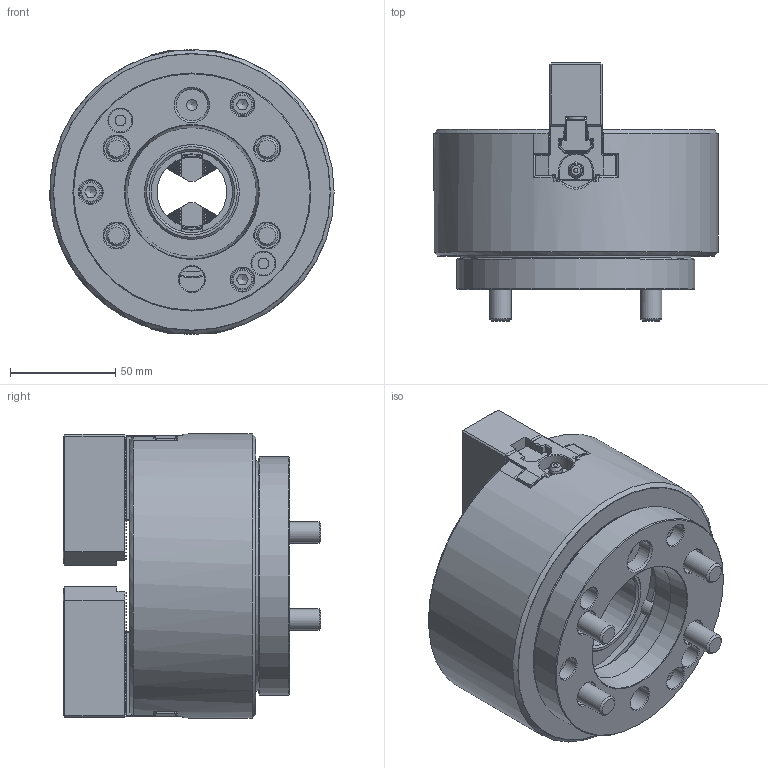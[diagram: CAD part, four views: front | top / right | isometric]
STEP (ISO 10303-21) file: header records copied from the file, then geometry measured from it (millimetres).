
FILE_DESCRIPTION(/* description */ (''),/* implementation_level */ '2;1');
FILE_NAME(/* name */ '\\Itserver\個人資料夾\柯玫如\8.網頁3D討論\1.中空油壓系列\1-1中空油壓夾頭\2.OPT系列\OPT-205\OPT-205-A4.stp',/* time_stamp */ '2024-08-16T16:13:09+08:00',/* author */ ('034'),/* organization */ (''),/* preprocessor_version */ 'ST-DEVELOPER v16.13',/* originating_system */ 'Autodesk Inventor 2018',/* authorisation */ '');
FILE_SCHEMA (('AUTOMOTIVE_DESIGN { 1 0 10303 214 3 1 1 }'));
Products named in the file (1): OPT-205-A4
Bounding box: 134.9 x 122.39 x 135 mm (x, y, z)
Volume: 917729.6 mm3; surface area: 147807.1 mm2
Topology: 1 solids, 25 shells, 3428 faces, 10399 edges, 6710 vertices
Faces by surface type: plane 2207, cylinder 665, bspline 338, cone 155, torus 49, sphere 14
Full cylindrical faces by diameter (mm): 3 x4, 3.4 x4, 4 x4, 4.5 x4, 5.1 x2, 5.2 x2, 6 x5, 6.6 x3, 6.8 x8, 7.6 x4, 8 x4, 8.5 x8, 10 x11, 11 x5, 12 x9, 13 x4, 13.5 x4, 15 x1, 16 x4, 17 x4, 33 x1, 34.1 x1, 36 x1, 36.2 x1, 38.5 x1, 40.5 x1, 44 x1, 45 x1, 61.1 x1, 109.2 x1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
Entity records: 115976 total; most frequent: CARTESIAN_POINT 25241, ORIENTED_EDGE 20066, DIRECTION 17267, EDGE_CURVE 10033, LINE 7219, VECTOR 7219, VERTEX_POINT 6594, AXIS2_PLACEMENT_3D 5024
